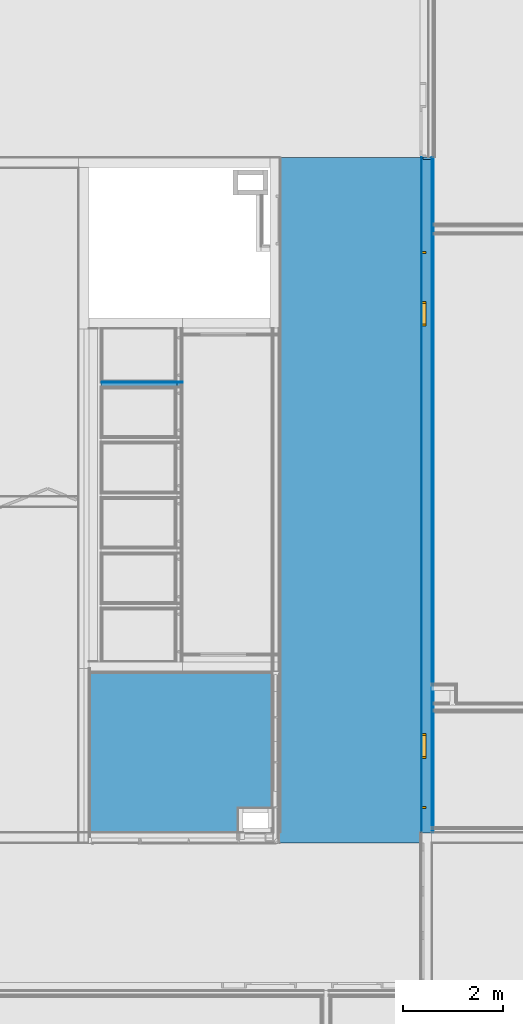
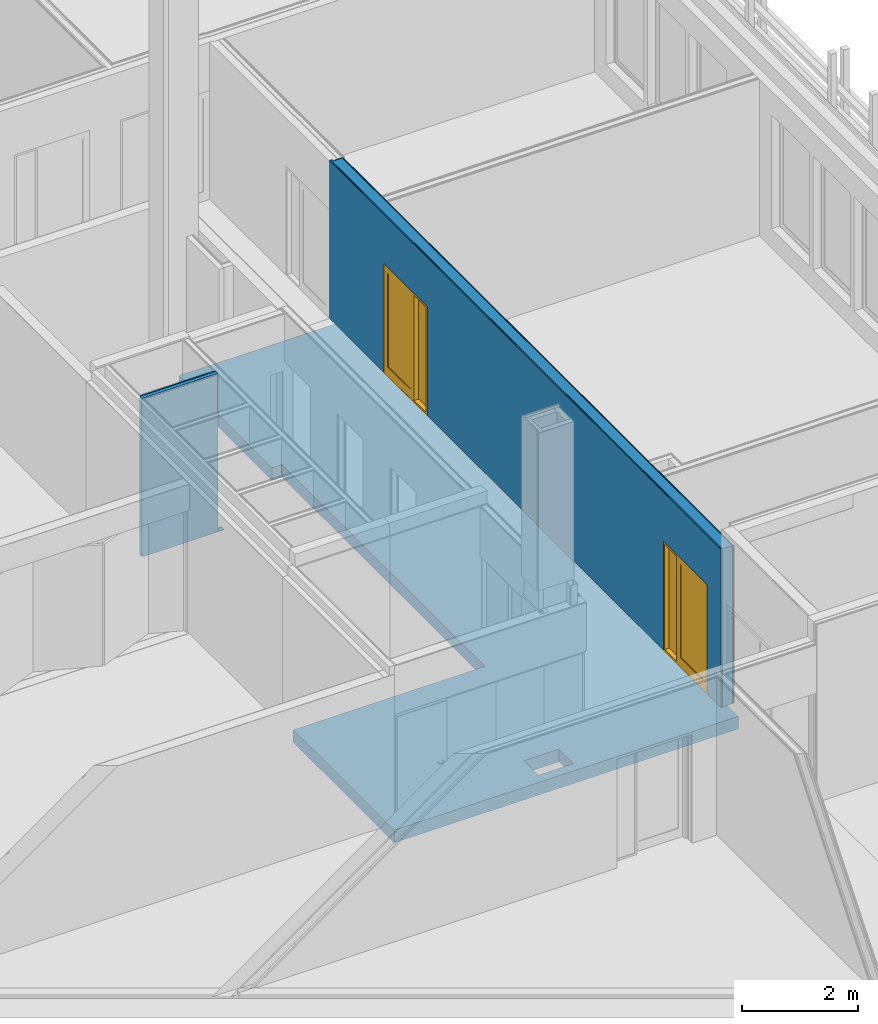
# One storey, part 116 of 139: 11 building element parts, 2 doors, 2 openings, 3 elements without a shape of their own.
"""IFC2X3 building model written with IfcOpenShell, lengths in millimetres."""

from ifc_helpers import new_model, entity, si_unit, converted_unit, derived_unit, money_unit, direction, frame, origin_with_axes, place, context, subcontext, project, spatial, open_shell, faceted_brep, surface_model, material, type_object, element, fill, aggregate, save


model = new_model("IFC2X3")

# Units and contexts
model_context = context("Model", 3, precision=0.01, world=origin_with_axes(), true_north=direction((0.0, 1.0)))
body_context = subcontext(model_context, "Body", "Model", "MODEL_VIEW")
ifc_project = project(units=[si_unit("LENGTHUNIT", "METRE", prefix="MILLI"), si_unit("AREAUNIT", "SQUARE_METRE"), si_unit("VOLUMEUNIT", "CUBIC_METRE"), converted_unit("PLANEANGLEUNIT", "DEGREE", entity("IfcPlaneAngleMeasure", 0.0174532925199), si_unit("PLANEANGLEUNIT", "RADIAN"), dimensions=[0, 0, 0, 0, 0, 0, 0]), money_unit("EUR"), converted_unit("TIMEUNIT", "Year", entity("IfcTimeMeasure", 31556926.0), si_unit("TIMEUNIT", "SECOND"), dimensions=[0, 0, 1, 0, 0, 0, 0]), si_unit("MASSUNIT", "GRAM", prefix="KILO"), si_unit("THERMODYNAMICTEMPERATUREUNIT", "DEGREE_CELSIUS"), si_unit("LUMINOUSINTENSITYUNIT", "LUMEN"), si_unit("ENERGYUNIT", "JOULE", prefix="MEGA"), derived_unit("THERMALCONDUCTANCEUNIT", [(si_unit("POWERUNIT", "WATT"), 1), (si_unit("LENGTHUNIT", "METRE"), -1), (si_unit("THERMODYNAMICTEMPERATUREUNIT", "KELVIN"), -1)]), derived_unit("SPECIFICHEATCAPACITYUNIT", [(si_unit("ENERGYUNIT", "JOULE"), 1), (si_unit("MASSUNIT", "GRAM", prefix="KILO"), -1), (si_unit("THERMODYNAMICTEMPERATUREUNIT", "KELVIN"), -1)]), derived_unit("MASSDENSITYUNIT", [(si_unit("MASSUNIT", "GRAM", prefix="KILO"), 1), (si_unit("VOLUMEUNIT", "CUBIC_METRE"), -1)])], contexts=[model_context])

# Site, building, storey
site_placement = place(None, origin_with_axes())
site = spatial("IfcSite", under=ifc_project, at=site_placement, Name="Kolde pst 67a", CompositionType="ELEMENT")
building_placement = place(site_placement, origin_with_axes())
building = spatial("IfcBuilding", under=site, at=building_placement, Name="Riigigümnaasium", CompositionType="ELEMENT")
storey_placement = place(building_placement, frame((0.0, 0.0, 4600.0), z_axis=(0.0, 0.0, 1.0), x_axis=(1.0, 0.0, 0.0)))
storey = spatial("IfcBuildingStorey", under=building, at=storey_placement, Name="2. korrus", CompositionType="ELEMENT", Elevation=4600.0)

# Door
door_style_1 = type_object("IfcDoorStyle", Name="Door with Sidelight on Side 2 25", ConstructionType="NOTDEFINED", OperationType="SINGLE_SWING_LEFT", ParameterTakesPrecedence=False, Sizeable=False)
wall_1_placement = place(storey_placement, frame((76819.9946973, 24449.9993056, -3.0), z_axis=(0.0, 0.0, 1.0), x_axis=(0.0, -1.0, 0.0)))
opening_2_placement = place(wall_1_placement, frame((12310.0479739, 0.0, 3.0), z_axis=(0.0, 0.0, 1.0), x_axis=(1.0, 0.0, 0.0)))
door_1_placement = place(opening_2_placement, frame((750.0, 0.0, 0.0), z_axis=(0.0, 0.0, 1.0), x_axis=(-1.0, 0.0, 0.0)))
door_1 = element("IfcDoor", 1, at=door_1_placement, inside=storey, type_object=door_style_1, Name="Siseuks", ObjectType="DOOR", OverallHeight=2300.0, OverallWidth=1500.0, context=body_context, shape_type="SurfaceModel", body=[
    faceted_brep([(1460.0, 230.0, 0.0), (1500.0, 230.0, 0.0), (1500.0, 115.0, 0.0), (1460.0, 115.0, 0.0), (1500.0, 230.0, 2260.0), (1460.0, 230.0, 40.0), (1460.0, 230.0, 2260.0), (1500.0, 115.0, 2260.0), (1460.0, 115.0, 2260.0), (1460.0, 115.0, 40.0)], [[[0, 1, 2, 3]], [[4, 1, 0, 5, 6]], [[1, 4, 7, 2]], [[3, 2, 7, 8, 9]], [[5, 0, 3, 9]], [[6, 5, 9, 8]], [[4, 6, 8, 7]]]),
    faceted_brep([(1000.0, 190.0, 2260.0), (1000.0, 190.0, 0.0), (1000.0, 115.0, 0.0), (1000.0, 115.0, 2260.0), (1012.0, 190.0, 2260.0), (1012.0, 190.0, 0.0), (1012.0, 230.0, 0.0), (1040.0, 230.0, 0.0), (1040.0, 115.0, 0.0), (1040.0, 115.0, 40.0), (1040.0, 115.0, 2260.0), (1012.0, 230.0, 2260.0), (1040.0, 230.0, 2260.0), (1040.0, 230.0, 40.0)], [[[0, 1, 2, 3]], [[0, 4, 5, 1]], [[1, 5, 6, 7, 8, 2]], [[2, 8, 9, 10, 3]], [[11, 4, 0, 3, 10, 12]], [[4, 11, 6, 5]], [[6, 11, 12, 13, 7]], [[8, 7, 13, 9]], [[9, 13, 12, 10]]]),
    faceted_brep([(1460.0, 230.0, 0.0), (1460.0, 230.0, 40.0), (1460.0, 115.0, 40.0), (1460.0, 115.0, 0.0), (1040.0, 230.0, 40.0), (1040.0, 230.0, 0.0), (1040.0, 115.0, 40.0), (1040.0, 115.0, 0.0)], [[[0, 1, 2, 3]], [[4, 1, 0, 5]], [[1, 4, 6, 2]], [[3, 2, 6, 7]], [[5, 0, 3, 7]], [[4, 5, 7, 6]]]),
    faceted_brep([(40.0, 190.0, 2260.0), (28.0, 190.0, 2260.0), (28.0, 230.0, 2260.0), (0.0, 230.0, 2260.0), (0.0, 115.0, 2260.0), (40.0, 115.0, 2260.0), (40.0, 190.0, 0.0), (28.0, 190.0, 0.0), (28.0, 230.0, 0.0), (0.0, 230.0, 0.0), (0.0, 115.0, 0.0), (40.0, 115.0, 0.0)], [[[0, 1, 2, 3, 4, 5]], [[1, 0, 6, 7]], [[2, 1, 7, 8]], [[2, 8, 9, 3]], [[4, 3, 9, 10]], [[5, 4, 10, 11]], [[6, 0, 5, 11]], [[8, 7, 6, 11, 10, 9]]]),
    faceted_brep([(1012.0, 230.0, 2272.0), (28.0, 230.0, 2272.0), (28.0, 230.0, 2260.0), (0.0, 230.0, 2260.0), (0.0, 230.0, 2300.0), (1500.0, 230.0, 2300.0), (1500.0, 230.0, 2260.0), (1460.0, 230.0, 2260.0), (1040.0, 230.0, 2260.0), (1012.0, 230.0, 2260.0), (1012.0, 190.0, 2272.0), (28.0, 190.0, 2272.0), (28.0, 190.0, 2260.0), (40.0, 190.0, 2260.0), (40.0, 115.0, 2260.0), (0.0, 115.0, 2260.0), (0.0, 115.0, 2300.0), (1500.0, 115.0, 2300.0), (1500.0, 115.0, 2260.0), (1460.0, 115.0, 2260.0), (1040.0, 115.0, 2260.0), (1012.0, 190.0, 2260.0), (1000.0, 115.0, 2260.0)], [[[0, 1, 2, 3, 4, 5, 6, 7, 8, 9]], [[0, 10, 11, 1]], [[1, 11, 12, 2]], [[12, 13, 14, 15, 3, 2]], [[4, 3, 15, 16]], [[5, 4, 16, 17]], [[6, 5, 17, 18]], [[7, 6, 18, 19]], [[8, 7, 19, 20]], [[21, 9, 8, 20, 22, 14, 13]], [[9, 21, 10, 0]], [[12, 11, 10, 21, 13]], [[14, 22, 20, 19, 18, 17, 16, 15]]]),
    faceted_brep([(28.0, 230.0, 200.0), (128.0, 230.0, 200.0), (128.0, 190.0, 200.0), (28.0, 190.0, 200.0), (28.0, 230.0, 2172.0), (128.0, 230.0, 2172.0), (128.0, 190.0, 2172.0), (28.0, 190.0, 2172.0)], [[[0, 1, 2, 3]], [[0, 4, 5, 1]], [[1, 5, 6, 2]], [[3, 2, 6, 7]], [[4, 0, 3, 7]], [[5, 4, 7, 6]]]),
    faceted_brep([(1012.0, 230.0, 200.0), (1012.0, 230.0, 2172.0), (1012.0, 190.0, 2172.0), (1012.0, 190.0, 200.0), (912.0, 230.0, 200.0), (912.0, 230.0, 2172.0), (912.0, 190.0, 2172.0), (912.0, 190.0, 200.0)], [[[0, 1, 2, 3]], [[0, 4, 5, 1]], [[1, 5, 6, 2]], [[3, 2, 6, 7]], [[4, 0, 3, 7]], [[5, 4, 7, 6]]]),
    faceted_brep([(28.0, 230.0, 0.0), (1012.0, 230.0, 0.0), (1012.0, 190.0, 0.0), (28.0, 190.0, 0.0), (28.0, 230.0, 200.0), (128.0, 230.0, 200.0), (912.0, 230.0, 200.0), (1012.0, 230.0, 200.0), (1012.0, 190.0, 200.0), (912.0, 190.0, 200.0), (128.0, 190.0, 200.0), (28.0, 190.0, 200.0)], [[[0, 1, 2, 3]], [[0, 4, 5, 6, 7, 1]], [[1, 7, 8, 2]], [[3, 2, 8, 9, 10, 11]], [[4, 0, 3, 11]], [[5, 4, 11, 10]], [[6, 5, 10, 9]], [[7, 6, 9, 8]]]),
    faceted_brep([(28.0, 230.0, 2272.0), (28.0, 230.0, 2172.0), (28.0, 190.0, 2172.0), (28.0, 190.0, 2272.0), (1012.0, 230.0, 2272.0), (1012.0, 230.0, 2172.0), (912.0, 230.0, 2172.0), (128.0, 230.0, 2172.0), (128.0, 190.0, 2172.0), (912.0, 190.0, 2172.0), (1012.0, 190.0, 2172.0), (1012.0, 190.0, 2272.0)], [[[0, 1, 2, 3]], [[0, 4, 5, 6, 7, 1]], [[1, 7, 8, 2]], [[3, 2, 8, 9, 10, 11]], [[4, 0, 3, 11]], [[5, 4, 11, 10]], [[6, 5, 10, 9]], [[7, 6, 9, 8]]]),
    surface_model("IfcShellBasedSurfaceModel", [(128.0, 216.0, 200.0), (128.0, 216.0, 2172.0), (912.0, 216.0, 2172.0), (912.0, 216.0, 200.0)], [open_shell([[[0, 1, 2, 3]]])]),
    surface_model("IfcShellBasedSurfaceModel", [(128.0, 204.0, 200.0), (912.0, 204.0, 200.0), (912.0, 204.0, 2172.0), (128.0, 204.0, 2172.0)], [open_shell([[[0, 1, 2, 3]]])]),
    surface_model("IfcShellBasedSurfaceModel", [(1460.0, 139.0, 40.0), (1040.0, 139.0, 40.0), (1040.0, 139.0, 2260.0), (1460.0, 139.0, 2260.0)], [open_shell([[[0, 1, 2, 3]]])]),
    surface_model("IfcShellBasedSurfaceModel", [(1460.0, 127.0, 40.0), (1460.0, 127.0, 2260.0), (1040.0, 127.0, 2260.0), (1040.0, 127.0, 40.0)], [open_shell([[[0, 1, 2, 3]]])]),
])

door_style_2 = type_object("IfcDoorStyle", Name="Door with Sidelight on Side 2 25", ConstructionType="NOTDEFINED", OperationType="SINGLE_SWING_RIGHT", ParameterTakesPrecedence=False, Sizeable=False)
opening_1_placement = place(wall_1_placement, frame((2640.03802981, 0.0, 3.0), z_axis=(0.0, 0.0, 1.0), x_axis=(1.0, 0.0, 0.0)))
door_2_placement = place(opening_1_placement, frame((750.0, 0.0, 0.0), z_axis=(0.0, 0.0, 1.0), x_axis=(-1.0, 0.0, 0.0)))
door_2 = element("IfcDoor", 2, at=door_2_placement, inside=storey, type_object=door_style_2, Name="Siseuks", ObjectType="DOOR", OverallHeight=2300.0, OverallWidth=1500.0, context=body_context, shape_type="SurfaceModel", body=[
    faceted_brep([(0.0, 115.0, 0.0), (0.0, 230.0, 0.0), (40.0, 230.0, 0.0), (40.0, 115.0, 0.0), (0.0, 115.0, 2260.0), (0.0, 230.0, 2260.0), (40.0, 230.0, 2260.0), (40.0, 230.0, 40.0), (40.0, 115.0, 40.0), (40.0, 115.0, 2260.0)], [[[0, 1, 2, 3]], [[4, 5, 1, 0]], [[2, 1, 5, 6, 7]], [[3, 2, 7, 8]], [[4, 0, 3, 8, 9]], [[9, 6, 5, 4]], [[8, 7, 6, 9]]]),
    faceted_brep([(500.0, 115.0, 0.0), (500.0, 190.0, 0.0), (500.0, 190.0, 2260.0), (500.0, 115.0, 2260.0), (488.0, 230.0, 0.0), (488.0, 190.0, 0.0), (460.0, 115.0, 0.0), (460.0, 230.0, 0.0), (488.0, 190.0, 2260.0), (488.0, 230.0, 2260.0), (460.0, 230.0, 2260.0), (460.0, 115.0, 2260.0), (460.0, 115.0, 40.0), (460.0, 230.0, 40.0)], [[[0, 1, 2, 3]], [[4, 5, 1, 0, 6, 7]], [[5, 8, 2, 1]], [[2, 8, 9, 10, 11, 3]], [[12, 6, 0, 3, 11]], [[4, 9, 8, 5]], [[13, 7, 6, 12]], [[10, 9, 4, 7, 13]], [[10, 13, 12, 11]]]),
    faceted_brep([(40.0, 115.0, 40.0), (40.0, 230.0, 40.0), (40.0, 230.0, 0.0), (40.0, 115.0, 0.0), (460.0, 115.0, 40.0), (460.0, 230.0, 40.0), (460.0, 230.0, 0.0), (460.0, 115.0, 0.0)], [[[0, 1, 2, 3]], [[4, 5, 1, 0]], [[2, 1, 5, 6]], [[3, 2, 6, 7]], [[4, 0, 3, 7]], [[7, 6, 5, 4]]]),
    faceted_brep([(1472.0, 230.0, 2260.0), (1472.0, 190.0, 2260.0), (1460.0, 190.0, 2260.0), (1460.0, 115.0, 2260.0), (1500.0, 115.0, 2260.0), (1500.0, 230.0, 2260.0), (1472.0, 190.0, 0.0), (1472.0, 230.0, 0.0), (1460.0, 190.0, 0.0), (1460.0, 115.0, 0.0), (1500.0, 115.0, 0.0), (1500.0, 230.0, 0.0)], [[[0, 1, 2, 3, 4, 5]], [[6, 1, 0, 7]], [[8, 2, 1, 6]], [[3, 2, 8, 9]], [[10, 4, 3, 9]], [[11, 5, 4, 10]], [[11, 7, 0, 5]], [[8, 6, 7, 11, 10, 9]]]),
    faceted_brep([(488.0, 230.0, 2272.0), (488.0, 230.0, 2260.0), (460.0, 230.0, 2260.0), (40.0, 230.0, 2260.0), (0.0, 230.0, 2260.0), (0.0, 230.0, 2300.0), (1500.0, 230.0, 2300.0), (1500.0, 230.0, 2260.0), (1472.0, 230.0, 2260.0), (1472.0, 230.0, 2272.0), (488.0, 190.0, 2272.0), (488.0, 190.0, 2260.0), (1460.0, 190.0, 2260.0), (1460.0, 115.0, 2260.0), (500.0, 115.0, 2260.0), (460.0, 115.0, 2260.0), (40.0, 115.0, 2260.0), (0.0, 115.0, 2260.0), (0.0, 115.0, 2300.0), (1500.0, 115.0, 2300.0), (1500.0, 115.0, 2260.0), (1472.0, 190.0, 2260.0), (1472.0, 190.0, 2272.0)], [[[0, 1, 2, 3, 4, 5, 6, 7, 8, 9]], [[1, 0, 10, 11]], [[11, 12, 13, 14, 15, 2, 1]], [[2, 15, 16, 3]], [[3, 16, 17, 4]], [[4, 17, 18, 5]], [[5, 18, 19, 6]], [[6, 19, 20, 7]], [[21, 8, 7, 20, 13, 12]], [[9, 8, 21, 22]], [[0, 9, 22, 10]], [[21, 12, 11, 10, 22]], [[13, 20, 19, 18, 17, 16, 15, 14]]]),
    faceted_brep([(1472.0, 230.0, 200.0), (1472.0, 190.0, 200.0), (1372.0, 190.0, 200.0), (1372.0, 230.0, 200.0), (1472.0, 230.0, 2172.0), (1472.0, 190.0, 2172.0), (1372.0, 190.0, 2172.0), (1372.0, 230.0, 2172.0)], [[[0, 1, 2, 3]], [[4, 5, 1, 0]], [[1, 5, 6, 2]], [[3, 2, 6, 7]], [[0, 3, 7, 4]], [[7, 6, 5, 4]]]),
    faceted_brep([(488.0, 230.0, 200.0), (488.0, 190.0, 200.0), (488.0, 190.0, 2172.0), (488.0, 230.0, 2172.0), (588.0, 230.0, 200.0), (588.0, 190.0, 200.0), (588.0, 190.0, 2172.0), (588.0, 230.0, 2172.0)], [[[0, 1, 2, 3]], [[4, 5, 1, 0]], [[1, 5, 6, 2]], [[3, 2, 6, 7]], [[0, 3, 7, 4]], [[7, 6, 5, 4]]]),
    faceted_brep([(1472.0, 230.0, 0.0), (1472.0, 190.0, 0.0), (488.0, 190.0, 0.0), (488.0, 230.0, 0.0), (1472.0, 230.0, 200.0), (1472.0, 190.0, 200.0), (1372.0, 190.0, 200.0), (588.0, 190.0, 200.0), (488.0, 190.0, 200.0), (488.0, 230.0, 200.0), (588.0, 230.0, 200.0), (1372.0, 230.0, 200.0)], [[[0, 1, 2, 3]], [[4, 5, 1, 0]], [[1, 5, 6, 7, 8, 2]], [[3, 2, 8, 9]], [[0, 3, 9, 10, 11, 4]], [[11, 6, 5, 4]], [[10, 7, 6, 11]], [[9, 8, 7, 10]]]),
    faceted_brep([(1472.0, 230.0, 2272.0), (1472.0, 190.0, 2272.0), (1472.0, 190.0, 2172.0), (1472.0, 230.0, 2172.0), (488.0, 230.0, 2272.0), (488.0, 190.0, 2272.0), (488.0, 190.0, 2172.0), (588.0, 190.0, 2172.0), (1372.0, 190.0, 2172.0), (1372.0, 230.0, 2172.0), (588.0, 230.0, 2172.0), (488.0, 230.0, 2172.0)], [[[0, 1, 2, 3]], [[4, 5, 1, 0]], [[1, 5, 6, 7, 8, 2]], [[3, 2, 8, 9]], [[0, 3, 9, 10, 11, 4]], [[11, 6, 5, 4]], [[10, 7, 6, 11]], [[9, 8, 7, 10]]]),
    surface_model("IfcShellBasedSurfaceModel", [(1372.0, 216.0, 200.0), (588.0, 216.0, 200.0), (588.0, 216.0, 2172.0), (1372.0, 216.0, 2172.0)], [open_shell([[[0, 1, 2, 3]]])]),
    surface_model("IfcShellBasedSurfaceModel", [(1372.0, 204.0, 200.0), (1372.0, 204.0, 2172.0), (588.0, 204.0, 2172.0), (588.0, 204.0, 200.0)], [open_shell([[[0, 1, 2, 3]]])]),
    surface_model("IfcShellBasedSurfaceModel", [(40.0, 139.0, 40.0), (40.0, 139.0, 2260.0), (460.0, 139.0, 2260.0), (460.0, 139.0, 40.0)], [open_shell([[[0, 1, 2, 3]]])]),
    surface_model("IfcShellBasedSurfaceModel", [(40.0, 127.0, 40.0), (460.0, 127.0, 40.0), (460.0, 127.0, 2260.0), (40.0, 127.0, 2260.0)], [open_shell([[[0, 1, 2, 3]]])]),
])

# Wall, opening
wall_type_1 = type_object("IfcWallType", Name="SS-RB-20/7_kipsil krohv +dold 275", PredefinedType="NOTDEFINED")
wall_1 = element("IfcWall", 3, at=wall_1_placement, inside=storey, type_object=wall_type_1, Name="Sisesein")
opening_1 = element("IfcOpeningElement", 4, at=opening_1_placement, cuts=wall_1, Name="Siseuks", context=body_context, shape_type="Brep", body=[
    faceted_brep([(-750.0, 274.8, 2300.0), (-750.0, 274.8, 0.0), (-750.0, -549.6, 0.0), (-750.0, -549.6, 2300.0), (750.0, 274.8, 2300.0), (750.0, 274.8, 0.0), (750.0, -549.6, 0.0), (750.0, -549.6, 2300.0)], [[[0, 1, 2, 3]], [[0, 4, 5, 1]], [[1, 5, 6, 2]], [[3, 2, 6, 7]], [[4, 0, 3, 7]], [[5, 4, 7, 6]]]),
])

fill(opening_1, door_2)

# Opening
opening_2 = element("IfcOpeningElement", 5, at=opening_2_placement, cuts=wall_1, Name="Siseuks", context=body_context, shape_type="Brep", body=[
    faceted_brep([(750.0, -549.6, 2300.0), (750.0, -549.6, 0.0), (750.0, 274.8, 0.0), (750.0, 274.8, 2300.0), (-750.0, -549.6, 2300.0), (-750.0, -549.6, 0.0), (-750.0, 274.8, 0.0), (-750.0, 274.8, 2300.0)], [[[0, 1, 2, 3]], [[0, 4, 5, 1]], [[1, 5, 6, 2]], [[3, 2, 6, 7]], [[4, 0, 3, 7]], [[5, 4, 7, 6]]]),
])

fill(opening_2, door_1)

# Building element part
ifc_material_1 = material(Name="_VIIMISTLUSKIHT - viimistlus vastavalt SA osale")
building_element_part_1_placement = place(wall_1_placement, origin_with_axes())
building_element_part_1 = element("IfcBuildingElementPart", 6, at=building_element_part_1_placement, material=ifc_material_1, Name="_VIIMISTLUSKIHT - viimistlus vastavalt SA osale", context=body_context, shape_type="Brep", body=[
    faceted_brep([(0.0, 34.8, 3309.9), (0.0, 44.8, 3309.9), (0.0, 44.8, 3.0), (0.0, 34.8, 3.0), (13549.9369946, 44.8, 3309.9), (13549.9368621, 34.8, 3309.9), (13549.9369946, 44.8, 3338.0), (13550.0380297, 44.8, 3338.0), (13550.0380297, 44.8, 0.0), (13549.9625495, 44.8, 0.0), (13549.9625495, 44.8, 3.0), (13060.0479739, 44.8, 3.0), (13060.0479739, 44.8, 2303.0), (11560.0479739, 44.8, 2303.0), (11560.0479739, 44.8, 3.0), (10700.0479604, 44.8, 3.0), (10700.0479604, 44.8, 0.0), (10575.0479604, 44.8, 0.0), (10575.0479604, 44.8, 3.0), (3390.03802981, 44.8, 3.0), (3390.03802981, 44.8, 2303.0), (1890.03802981, 44.8, 2303.0), (1890.03802981, 44.8, 3.0), (1890.03802981, 34.8, 3.0), (1890.03802981, 34.8, 2303.0), (3390.03802981, 34.8, 2303.0), (3390.03802981, 34.8, 3.0), (10575.0479604, 34.8, 3.0), (10575.0479604, 34.8, 0.0), (10700.0479604, 34.8, 0.0), (10700.0479604, 34.8, 3.0), (11560.0479739, 34.8, 3.0), (11560.0479739, 34.8, 2303.0), (13060.0479739, 34.8, 2303.0), (13060.0479739, 34.8, 3.0), (13549.9624481, 34.8, 3.0), (13549.9624481, 34.8, 0.0), (13550.0380297, 34.8, 0.0), (13550.0380297, 34.8, 3338.0), (13549.9368621, 34.8, 3338.0)], [[[0, 1, 2, 3]], [[4, 1, 0, 5]], [[4, 6, 7, 8, 9, 10, 11, 12, 13, 14, 15, 16, 17, 18, 19, 20, 21, 22, 2, 1]], [[23, 3, 2, 22]], [[5, 0, 3, 23, 24, 25, 26, 27, 28, 29, 30, 31, 32, 33, 34, 35, 36, 37, 38, 39]], [[39, 6, 4, 5]], [[6, 39, 38, 7]], [[38, 37, 8, 7]], [[37, 36, 9, 8]], [[35, 10, 9, 36]], [[35, 34, 11, 10]], [[12, 11, 34, 33]], [[33, 32, 13, 12]], [[32, 31, 14, 13]], [[30, 15, 14, 31]], [[29, 16, 15, 30]], [[29, 28, 17, 16]], [[27, 18, 17, 28]], [[27, 26, 19, 18]], [[20, 19, 26, 25]], [[24, 21, 20, 25]], [[24, 23, 22, 21]]]),
])

ifc_material_2 = material(Name="_PLAATMATERJAL - erikõva kipsplaat, kinnitamiseks kasutada erikõvale plaadile sobivaid kruve nt XTB 3,9x55mm, Knauf Blue (Diamant) või samaväärne")
building_element_part_2_placement = place(wall_1_placement, origin_with_axes())
building_element_part_2 = element("IfcBuildingElementPart", 7, at=building_element_part_2_placement, material=ifc_material_2, Name="_PLAATMATERJAL - erikõva kipsplaat, kinnitamiseks kasutada erikõvale plaadile sobivaid kruve nt XTB 3,9x55mm, Knauf Blue (Diamant) või samaväärne", context=body_context, shape_type="Brep", body=[
    faceted_brep([(0.0, 22.4, 3309.9), (0.0, 34.8, 3309.9), (0.0, 34.8, 3.0), (0.0, 22.4, 3.0), (13549.9368621, 34.8, 3309.9), (13549.9366978, 22.4, 3309.9), (13549.9368621, 34.8, 3338.0), (13550.0380297, 34.8, 3338.0), (13550.0380297, 34.8, 0.0), (13549.9624481, 34.8, 0.0), (13549.9624481, 34.8, 3.0), (13060.0479739, 34.8, 3.0), (13060.0479739, 34.8, 2303.0), (11560.0479739, 34.8, 2303.0), (11560.0479739, 34.8, 3.0), (10700.0479604, 34.8, 3.0), (10700.0479604, 34.8, 0.0), (10575.0479604, 34.8, 0.0), (10575.0479604, 34.8, 3.0), (3390.03802981, 34.8, 3.0), (3390.03802981, 34.8, 2303.0), (1890.03802981, 34.8, 2303.0), (1890.03802981, 34.8, 3.0), (1890.03802981, 22.4, 3.0), (1890.03802981, 22.4, 2303.0), (3390.03802981, 22.4, 2303.0), (3390.03802981, 22.4, 3.0), (10575.0479604, 22.4, 3.0), (10575.0479604, 22.4, 0.0), (10700.0479604, 22.4, 0.0), (10700.0479604, 22.4, 3.0), (11560.0479739, 22.4, 3.0), (11560.0479739, 22.4, 2303.0), (13060.0479739, 22.4, 2303.0), (13060.0479739, 22.4, 3.0), (13549.9623223, 22.4, 3.0), (13549.9623223, 22.4, 0.0), (13550.0380297, 22.4, 0.0), (13550.0380297, 22.4, 3338.0), (13549.9366978, 22.4, 3338.0)], [[[0, 1, 2, 3]], [[4, 1, 0, 5]], [[4, 6, 7, 8, 9, 10, 11, 12, 13, 14, 15, 16, 17, 18, 19, 20, 21, 22, 2, 1]], [[23, 3, 2, 22]], [[5, 0, 3, 23, 24, 25, 26, 27, 28, 29, 30, 31, 32, 33, 34, 35, 36, 37, 38, 39]], [[39, 6, 4, 5]], [[6, 39, 38, 7]], [[38, 37, 8, 7]], [[37, 36, 9, 8]], [[35, 10, 9, 36]], [[35, 34, 11, 10]], [[12, 11, 34, 33]], [[33, 32, 13, 12]], [[32, 31, 14, 13]], [[30, 15, 14, 31]], [[29, 16, 15, 30]], [[29, 28, 17, 16]], [[27, 18, 17, 28]], [[27, 26, 19, 18]], [[20, 19, 26, 25]], [[24, 21, 20, 25]], [[24, 23, 22, 21]]]),
])

building_element_part_3_placement = place(wall_1_placement, origin_with_axes())
building_element_part_3 = element("IfcBuildingElementPart", 8, at=building_element_part_3_placement, material=ifc_material_2, Name="_PLAATMATERJAL - erikõva kipsplaat, kinnitamiseks kasutada erikõvale plaadile sobivaid kruve nt XTB 3,9x55mm, Knauf Blue (Diamant) või samaväärne", context=body_context, shape_type="Brep", body=[
    faceted_brep([(0.0, 10.0, 3309.9), (0.0, 22.4, 3309.9), (0.0, 22.4, 3.0), (0.0, 10.0, 3.0), (13549.9366978, 22.4, 3309.9), (13549.9365335, 10.0, 3309.9), (13549.9366978, 22.4, 3338.0), (13550.0380297, 22.4, 3338.0), (13550.0380297, 22.4, 0.0), (13549.9623223, 22.4, 0.0), (13549.9623223, 22.4, 3.0), (13060.0479739, 22.4, 3.0), (13060.0479739, 22.4, 2303.0), (11560.0479739, 22.4, 2303.0), (11560.0479739, 22.4, 3.0), (10700.0479604, 22.4, 3.0), (10700.0479604, 22.4, 0.0), (10575.0479604, 22.4, 0.0), (10575.0479604, 22.4, 3.0), (3390.03802981, 22.4, 3.0), (3390.03802981, 22.4, 2303.0), (1890.03802981, 22.4, 2303.0), (1890.03802981, 22.4, 3.0), (1890.03802981, 10.0, 3.0), (1890.03802981, 10.0, 2303.0), (3390.03802981, 10.0, 2303.0), (3390.03802981, 10.0, 3.0), (10575.0479604, 10.0, 3.0), (10575.0479604, 10.0, 0.0), (10700.0479604, 10.0, 0.0), (10700.0479604, 10.0, 3.0), (11560.0479739, 10.0, 3.0), (11560.0479739, 10.0, 2303.0), (13060.0479739, 10.0, 2303.0), (13060.0479739, 10.0, 3.0), (13549.9621965, 10.0, 3.0), (13549.9621965, 10.0, 0.0), (13550.0380297, 10.0, 0.0), (13550.0380297, 10.0, 3338.0), (13549.9365335, 10.0, 3338.0)], [[[0, 1, 2, 3]], [[4, 1, 0, 5]], [[4, 6, 7, 8, 9, 10, 11, 12, 13, 14, 15, 16, 17, 18, 19, 20, 21, 22, 2, 1]], [[23, 3, 2, 22]], [[5, 0, 3, 23, 24, 25, 26, 27, 28, 29, 30, 31, 32, 33, 34, 35, 36, 37, 38, 39]], [[39, 6, 4, 5]], [[6, 39, 38, 7]], [[38, 37, 8, 7]], [[37, 36, 9, 8]], [[35, 10, 9, 36]], [[35, 34, 11, 10]], [[12, 11, 34, 33]], [[33, 32, 13, 12]], [[32, 31, 14, 13]], [[30, 15, 14, 31]], [[29, 16, 15, 30]], [[29, 28, 17, 16]], [[27, 18, 17, 28]], [[27, 26, 19, 18]], [[20, 19, 26, 25]], [[24, 21, 20, 25]], [[24, 23, 22, 21]]]),
])

ifc_material_3 = material(Name="_KARKASS - eriprofiilkinnitus vastavalt sisemisele plaatviimistlusele")
building_element_part_4_placement = place(wall_1_placement, origin_with_axes())
building_element_part_4 = element("IfcBuildingElementPart", 9, at=building_element_part_4_placement, material=ifc_material_3, Name="_KARKASS - eriprofiilkinnitus vastavalt sisemisele plaatviimistlusele", context=body_context, shape_type="Brep", body=[
    faceted_brep([(0.0, 0.0, 3309.9), (0.0, 10.0, 3309.9), (0.0, 10.0, 3.0), (0.0, 0.0, 3.0), (13549.9365335, 10.0, 3309.9), (49.9993318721, -2.10440305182e-05, 3309.9), (13549.936401, -2.10440305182e-05, 3309.9), (13549.9365335, 10.0, 3338.0), (13550.0380297, 10.0, 3338.0), (13550.0380297, 10.0, 0.0), (13549.9621965, 10.0, 0.0), (13549.9621965, 10.0, 3.0), (13060.0479739, 10.0, 3.0), (13060.0479739, 10.0, 2303.0), (11560.0479739, 10.0, 2303.0), (11560.0479739, 10.0, 3.0), (10700.0479604, 10.0, 3.0), (10700.0479604, 10.0, 0.0), (10575.0479604, 10.0, 0.0), (10575.0479604, 10.0, 3.0), (3390.03802981, 10.0, 3.0), (3390.03802981, 10.0, 2303.0), (1890.03802981, 10.0, 2303.0), (1890.03802981, 10.0, 3.0), (1890.03802981, 0.0, 3.0), (1890.03802981, 0.0, 2303.0), (3390.03802981, 0.0, 2303.0), (3390.03802981, 0.0, 3.0), (10575.0479604, 0.0, 3.0), (10575.0479604, 0.0, 0.0), (10700.0479604, 0.0, 0.0), (10700.0479604, 0.0, 3.0), (11560.0479739, 0.0, 3.0), (11560.0479739, 0.0, 2303.0), (13060.0479739, 0.0, 2303.0), (13060.0479739, 0.0, 3.0), (13549.9620951, 0.0, 3.0), (13549.9620951, 0.0, 0.0), (13550.0380297, 0.0, 0.0), (13550.0380297, 0.0, 3338.0), (13549.936401, -2.10440305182e-05, 3338.0)], [[[0, 1, 2, 3]], [[4, 1, 0, 5, 6]], [[4, 7, 8, 9, 10, 11, 12, 13, 14, 15, 16, 17, 18, 19, 20, 21, 22, 23, 2, 1]], [[24, 3, 2, 23]], [[5, 0, 3, 24, 25, 26, 27, 28, 29, 30, 31, 32, 33, 34, 35, 36, 37, 38, 39, 40, 6]], [[40, 7, 4, 6]], [[7, 40, 39, 8]], [[39, 38, 9, 8]], [[38, 37, 10, 9]], [[36, 11, 10, 37]], [[36, 35, 12, 11]], [[13, 12, 35, 34]], [[34, 33, 14, 13]], [[33, 32, 15, 14]], [[31, 16, 15, 32]], [[30, 17, 16, 31]], [[30, 29, 18, 17]], [[28, 19, 18, 29]], [[28, 27, 20, 19]], [[21, 20, 27, 26]], [[25, 22, 21, 26]], [[25, 24, 23, 22]]]),
])

ifc_material_4 = material(Name="_KANDETARIND - monteeritav raudbetoon vastavalt EK osale")
building_element_part_5_placement = place(wall_1_placement, origin_with_axes())
building_element_part_5 = element("IfcBuildingElementPart", 10, at=building_element_part_5_placement, material=ifc_material_4, Name="_KANDETARIND - monteeritav raudbetoon vastavalt EK osale", context=body_context, shape_type="Brep", body=[
    faceted_brep([(0.0, -169.999873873, 3338.0), (0.0, -169.999873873, 3309.9), (0.0, 0.0, 3309.9), (0.0, 0.0, 3.0), (0.0, -169.992634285, 3.0), (0.0, -169.992634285, 0.0), (0.0, -200.0, 0.0), (0.0, -200.0, 3338.0), (49.9993318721, -169.999873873, 3338.0), (49.9993318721, -169.999873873, 3309.9), (49.9993318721, -2.10440305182e-05, 3309.9), (49.9993318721, -2.10440305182e-05, 3338.0), (13550.0380297, 0.0, 3338.0), (13550.0380297, 0.0, 0.0), (13549.9620951, 0.0, 0.0), (13549.9620951, 0.0, 3.0), (13060.0479739, 0.0, 3.0), (13060.0479739, 0.0, 2303.0), (11560.0479739, 0.0, 2303.0), (11560.0479739, 0.0, 3.0), (3390.03802981, 0.0, 3.0), (3390.03802981, 0.0, 2303.0), (1890.03802981, 0.0, 2303.0), (1890.03802981, 0.0, 3.0), (9.99933286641, -169.992634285, 3.0), (1890.03802981, -0.312249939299, 3.0), (9.99933286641, -0.312249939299, 3.0), (9.99933286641, -169.992634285, 0.0), (9.99933286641, -0.312249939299, 0.0), (13549.9620919, -0.312249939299, 0.0), (13550.0380297, -200.0, 0.0), (13550.0380297, -200.0, 3338.0), (3390.03802981, -200.0, 2303.0), (3390.03802981, -200.0, 3.0), (1890.03802981, -200.0, 3.0), (1890.03802981, -200.0, 2303.0), (11560.0479739, -200.0, 2303.0), (13060.0479739, -200.0, 2303.0), (13060.0479739, -200.0, 3.0), (11560.0479739, -200.0, 3.0), (13549.9620919, -0.312249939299, 3.0), (13060.0479739, -0.312249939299, 3.0), (11560.0479739, -0.312249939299, 3.0), (3390.03802981, -0.312249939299, 3.0)], [[[0, 1, 2, 3, 4, 5, 6, 7]], [[1, 0, 8, 9]], [[10, 2, 1, 9]], [[10, 11, 12, 13, 14, 15, 16, 17, 18, 19, 20, 21, 22, 23, 3, 2]], [[24, 4, 3, 23, 25, 26]], [[27, 5, 4, 24]], [[28, 29, 14, 13, 30, 6, 5, 27]], [[30, 31, 7, 6], [32, 33, 34, 35], [36, 37, 38, 39]], [[8, 0, 7, 31, 12, 11]], [[8, 11, 10, 9]], [[31, 30, 13, 12]], [[40, 15, 14, 29]], [[40, 41, 16, 15]], [[17, 16, 41, 38, 37]], [[37, 36, 18, 17]], [[39, 42, 19, 18, 36]], [[42, 43, 20, 19]], [[21, 20, 43, 33, 32]], [[35, 22, 21, 32]], [[34, 25, 23, 22, 35]], [[40, 29, 28, 26, 25, 43, 42, 41]], [[26, 28, 27, 24]], [[33, 43, 25, 34]], [[38, 41, 42, 39]]]),
])

building_element_part_6_placement = place(wall_1_placement, origin_with_axes())
building_element_part_6 = element("IfcBuildingElementPart", 11, at=building_element_part_6_placement, material=ifc_material_3, Name="_KARKASS - eriprofiilkinnitus vastavalt sisemisele plaatviimistlusele", context=body_context, shape_type="Brep", body=[
    faceted_brep([(0.0, -210.0, 3338.0), (0.0, -210.0, 0.0), (13550.0380297, -210.0, 0.0), (13550.0380297, -210.0, 3338.0), (1890.03802981, -210.0, 3.0), (1890.03802981, -210.0, 2303.0), (3390.03802981, -210.0, 2303.0), (3390.03802981, -210.0, 3.0), (13060.0479739, -210.0, 3.0), (11560.0479739, -210.0, 3.0), (11560.0479739, -210.0, 2303.0), (13060.0479739, -210.0, 2303.0), (0.0, -200.0, 0.0), (0.0, -200.0, 3338.0), (13550.0380297, -200.0, 0.0), (13550.0380297, -200.0, 3338.0), (1890.03802981, -200.0, 2303.0), (1890.03802981, -200.0, 3.0), (3390.03802981, -200.0, 2303.0), (3390.03802981, -200.0, 3.0), (13060.0479739, -200.0, 3.0), (11560.0479739, -200.0, 3.0), (11560.0479739, -200.0, 2303.0), (13060.0479739, -200.0, 2303.0)], [[[0, 1, 2, 3], [4, 5, 6, 7], [8, 9, 10, 11]], [[12, 1, 0, 13]], [[1, 12, 14, 2]], [[14, 15, 3, 2]], [[13, 0, 3, 15]], [[16, 5, 4, 17]], [[18, 6, 5, 16]], [[19, 7, 6, 18]], [[17, 4, 7, 19]], [[20, 21, 9, 8]], [[21, 22, 10, 9]], [[22, 23, 11, 10]], [[23, 20, 8, 11]], [[12, 13, 15, 14], [18, 16, 17, 19], [20, 23, 22, 21]]]),
])

ifc_material_5 = material(Name="_VIIMISTLUSKIHT - Dold plaat vastavalt SA osale")
building_element_part_7_placement = place(wall_1_placement, origin_with_axes())
building_element_part_7 = element("IfcBuildingElementPart", 12, at=building_element_part_7_placement, material=ifc_material_5, Name="_VIIMISTLUSKIHT - Dold plaat vastavalt SA osale", context=body_context, shape_type="Brep", body=[
    faceted_brep([(0.0, -230.0, 3338.0), (0.0, -230.0, 0.0), (13550.0380297, -230.0, 0.0), (13550.0380297, -230.0, 3338.0), (1890.03802981, -230.0, 3.0), (1890.03802981, -230.0, 2303.0), (3390.03802981, -230.0, 2303.0), (3390.03802981, -230.0, 3.0), (13060.0479739, -230.0, 3.0), (11560.0479739, -230.0, 3.0), (11560.0479739, -230.0, 2303.0), (13060.0479739, -230.0, 2303.0), (0.0, -210.0, 0.0), (0.0, -210.0, 3338.0), (13550.0380297, -210.0, 0.0), (13550.0380297, -210.0, 3338.0), (1890.03802981, -210.0, 2303.0), (1890.03802981, -210.0, 3.0), (3390.03802981, -210.0, 2303.0), (3390.03802981, -210.0, 3.0), (13060.0479739, -210.0, 3.0), (11560.0479739, -210.0, 3.0), (11560.0479739, -210.0, 2303.0), (13060.0479739, -210.0, 2303.0)], [[[0, 1, 2, 3], [4, 5, 6, 7], [8, 9, 10, 11]], [[12, 1, 0, 13]], [[1, 12, 14, 2]], [[14, 15, 3, 2]], [[13, 0, 3, 15]], [[16, 5, 4, 17]], [[18, 6, 5, 16]], [[19, 7, 6, 18]], [[17, 4, 7, 19]], [[20, 21, 9, 8]], [[21, 22, 10, 9]], [[22, 23, 11, 10]], [[23, 20, 8, 11]], [[12, 13, 15, 14], [18, 16, 17, 19], [20, 23, 22, 21]]]),
])

aggregate(wall_1, [building_element_part_1, building_element_part_2, building_element_part_3, building_element_part_4, building_element_part_5, building_element_part_6, building_element_part_7])

# Wall, building element parts
wall_type_2 = type_object("IfcWallType", Name="SS-MK-7,5/1_plaaditud 155", PredefinedType="NOTDEFINED")
wall_2_placement = place(storey_placement, frame((70229.9982905, 19964.9999708, -15.0), z_axis=(0.0, 0.0, 1.0), x_axis=(1.0, 0.0, 0.0)))
wall_2 = element("IfcWall", 13, at=wall_2_placement, inside=storey, type_object=wall_type_2, Name="Sisesein")
ifc_material_6 = material(Name="_PLAATMATERJAL - kipsplaat veekindel")
building_element_part_8_placement = place(wall_2_placement, origin_with_axes())
building_element_part_8 = element("IfcBuildingElementPart", 14, at=building_element_part_8_placement, material=ifc_material_6, Name="_PLAATMATERJAL - kipsplaat veekindel", context=body_context, shape_type="Brep", body=[
    faceted_brep([(-14.9994932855, -15.0, 3350.0), (1460.00120421, -15.0, 3350.0), (1460.00120329, -15.0, 15.0), (1600.00120329, -15.0, 15.0), (1600.00117477, -15.0, 0.0), (0.0, -15.0, 0.0), (0.0, -15.0, 15.0), (-14.9994919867, -15.0, 15.0), (1460.00120576, -27.5, 3350.0), (-14.9994932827, -27.5, 3350.0), (1460.00120484, -27.5, 15.0), (1600.00120484, -27.5, 15.0), (1600.00117477, -27.5, 0.0), (0.0, -27.5, 0.0), (0.0, -27.5, 15.0), (-14.9994919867, -27.5, 15.0)], [[[0, 1, 2, 3, 4, 5, 6, 7]], [[8, 1, 0, 9]], [[1, 8, 10, 2]], [[3, 2, 10, 11]], [[4, 3, 11, 12]], [[13, 5, 4, 12]], [[13, 14, 6, 5]], [[14, 15, 7, 6]], [[9, 0, 7, 15]], [[8, 9, 15, 14, 13, 12, 11, 10]]]),
])
building_element_part_9_placement = place(wall_2_placement, origin_with_axes())
building_element_part_9 = element("IfcBuildingElementPart", 15, at=building_element_part_9_placement, material=ifc_material_6, Name="_PLAATMATERJAL - kipsplaat veekindel", context=body_context, shape_type="Brep", body=[
    faceted_brep([(-27.4994919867, -27.5, 3350.0), (1472.50120484, -27.5, 3350.0), (1472.50120484, -27.5, 15.0), (1600.00120484, -27.5, 15.0), (1600.00117477, -27.5, 0.0), (0.0, -27.5, 0.0), (0.0, -27.5, 15.0), (-27.4994919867, -27.5, 15.0), (1472.50120639, -40.0, 3350.0), (-27.4994919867, -40.0, 3350.0), (1472.50120639, -40.0, 15.0), (1600.00120639, -40.0, 15.0), (1600.00117477, -40.0, 0.0), (0.0, -40.0, 0.0), (0.0, -40.0, 15.0), (-27.4994919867, -40.0, 15.0)], [[[0, 1, 2, 3, 4, 5, 6, 7]], [[8, 1, 0, 9]], [[1, 8, 10, 2]], [[3, 2, 10, 11]], [[4, 3, 11, 12]], [[13, 5, 4, 12]], [[13, 14, 6, 5]], [[14, 15, 7, 6]], [[9, 0, 7, 15]], [[8, 9, 15, 14, 13, 12, 11, 10]]]),
])
ifc_material_7 = material(Name="_KARKASS - metallkarkass CW 75/50, mineraalvill karkassi vahel")
building_element_part_10_placement = place(wall_2_placement, origin_with_axes())
building_element_part_10 = element("IfcBuildingElementPart", 16, at=building_element_part_10_placement, material=ifc_material_7, Name="_KARKASS - metallkarkass CW 75/50, mineraalvill karkassi vahel", context=body_context, shape_type="Brep", body=[
    faceted_brep([(-39.9994905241, -40.0, 3350.0), (1485.00120456, -40.0, 3350.0), (1485.00120639, -40.0, 15.0), (1600.00120639, -40.0, 15.0), (1600.00117477, -40.0, 0.0), (0.0, -40.0, 0.0), (0.0, -40.0, 15.0), (-39.9994919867, -40.0, 15.0), (1485.00121388, -115.0, 3350.0), (-39.9994905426, -115.0, 3350.0), (1485.00121569, -115.0, 15.0), (1600.00121569, -115.0, 15.0), (1600.00117477, -115.0, 0.0), (0.0, -115.0, 0.0), (0.0, -115.0, 15.0), (-39.9994919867, -115.0, 15.0)], [[[0, 1, 2, 3, 4, 5, 6, 7]], [[8, 1, 0, 9]], [[1, 8, 10, 2]], [[3, 2, 10, 11]], [[4, 3, 11, 12]], [[13, 5, 4, 12]], [[13, 14, 6, 5]], [[14, 15, 7, 6]], [[9, 0, 7, 15]], [[8, 9, 15, 14, 13, 12, 11, 10]]]),
])
aggregate(wall_2, [building_element_part_8, building_element_part_9, building_element_part_10])

# Slab, building element part
slab_type = type_object("IfcSlabType", Name="VL-RB-26/1_PVC 415", PredefinedType="NOTDEFINED")
slab_placement = place(storey_placement, frame((73779.9994534, 14200.0000691, 0.0), z_axis=(0.0, 0.0, 1.0), x_axis=(1.0, 0.0, 0.0)))
slab = element("IfcSlab", 17, at=slab_placement, inside=storey, type_object=slab_type, Name="VAHELAGI", PredefinedType="NOTDEFINED")
building_element_part_11_placement = place(slab_placement, origin_with_axes())
building_element_part_11 = element("IfcBuildingElementPart", 18, at=building_element_part_11_placement, material=ifc_material_4, Name="_KANDETARIND - monteeritav raudbetoon vastavalt EK osale", context=body_context, shape_type="Brep", body=[
    faceted_brep([(-3830.00016506, -3500.04547846, -415.0), (-3830.00016506, 0.0, -415.0), (0.0, 0.0, -415.0), (0.0, 7023.78525799, -415.0), (-199.999994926, 7023.78525799, -415.0), (-199.999994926, 10240.0001088, -415.0), (3039.68292569, 10240.0001088, -415.0), (3039.62211596, -3500.29793778, -415.0), (-840.000668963, -2805.05990271, -415.0), (-840.000668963, -3305.06065755, -415.0), (-139.999918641, -3305.06065755, -415.0), (-139.999918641, -2805.05990271, -415.0), (-3830.00016506, -3500.04547846, -150.0), (-3830.00016506, 0.0, -150.0), (0.0, 0.0, -150.0), (0.0, 7023.78525799, -150.0), (-199.999994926, 7023.78525799, -150.0), (-199.999994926, 10240.0001088, -150.0), (3039.68292569, 10240.0001088, -150.0), (3039.62211596, -3500.29793778, -150.0), (-840.000668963, -2805.05990271, -150.0), (-840.000668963, -3305.06065755, -150.0), (-139.999918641, -3305.06065755, -150.0), (-139.999918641, -2805.05990271, -150.0)], [[[0, 1, 2, 3, 4, 5, 6, 7], [8, 9, 10, 11]], [[12, 13, 1, 0]], [[13, 14, 2, 1]], [[14, 15, 3, 2]], [[15, 16, 4, 3]], [[16, 17, 5, 4]], [[17, 18, 6, 5]], [[18, 19, 7, 6]], [[19, 12, 0, 7]], [[8, 20, 21, 9]], [[9, 21, 22, 10]], [[10, 22, 23, 11]], [[11, 23, 20, 8]], [[16, 15, 14, 13, 12, 19, 18, 17], [22, 21, 20, 23]]]),
])
aggregate(slab, [building_element_part_11])

save(model, "model.ifc")
